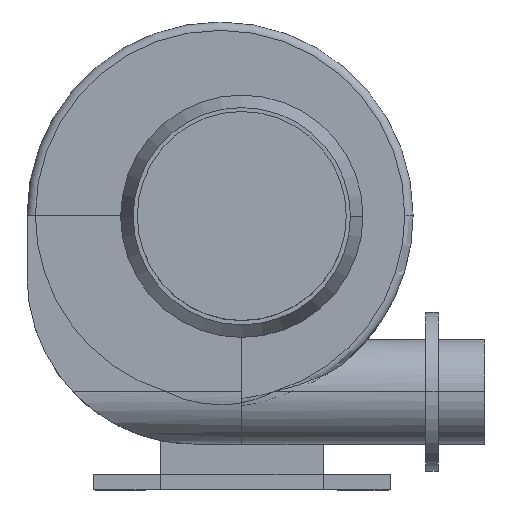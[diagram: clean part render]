
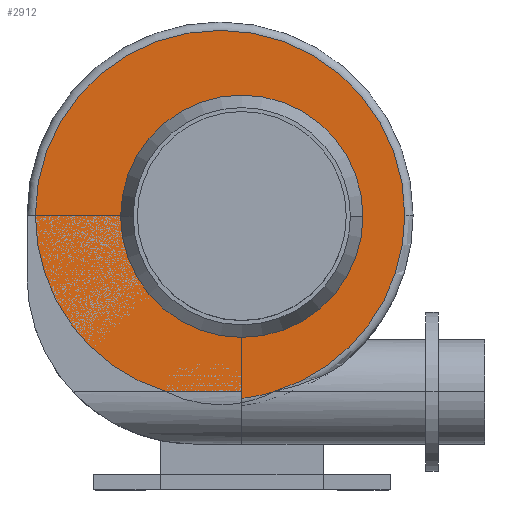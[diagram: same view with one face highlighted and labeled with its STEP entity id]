
A CAD part, top view. The second image highlights one B-rep face of the part: STEP entity #2912.
In plain terms, the highlighted planar face has unit normal (0, 0, 1).
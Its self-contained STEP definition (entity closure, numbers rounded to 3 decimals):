
#63 = CARTESIAN_POINT ( 'NONE',  ( 38.237, -210., 62.5 ) ) ;
#95 = CARTESIAN_POINT ( 'NONE',  ( 0., 0., 62.5 ) ) ;
#94 = DIRECTION ( 'NONE',  ( 0., 0., 1. ) ) ;
#173 = DIRECTION ( 'NONE',  ( 1., 0., 0. ) ) ;
#207 = CIRCLE ( 'NONE', #992, 221.005 ) ;
#257 = CARTESIAN_POINT ( 'NONE',  ( 0., -218.007, 62.5 ) ) ;
#269 = VERTEX_POINT ( 'NONE', #2127 ) ;
#317 = CARTESIAN_POINT ( 'NONE',  ( 145., 0., 62.5 ) ) ;
#344 = DIRECTION ( 'NONE',  ( 1., 0., 0. ) ) ;
#370 = DIRECTION ( 'NONE',  ( 0., 0., 1. ) ) ;
#472 = VECTOR ( 'NONE', #884, 1000. ) ;
#650 = ORIENTED_EDGE ( 'NONE', *, *, #2994, .T. ) ;
#739 = AXIS2_PLACEMENT_3D ( 'NONE', #3125, #1682, #173 ) ;
#767 = VERTEX_POINT ( 'NONE', #257 ) ;
#818 = CARTESIAN_POINT ( 'NONE',  ( -26., 1.463, 62.5 ) ) ;
#872 = CARTESIAN_POINT ( 'NONE',  ( 0., -210., 62.5 ) ) ;
#884 = DIRECTION ( 'NONE',  ( 1., 0., 0. ) ) ;
#909 = CARTESIAN_POINT ( 'NONE',  ( -26., 1.463, 62.5 ) ) ;
#914 = AXIS2_PLACEMENT_3D ( 'NONE', #818, #94, #1864 ) ;
#923 = CARTESIAN_POINT ( 'NONE',  ( -26., 1.463, 62.5 ) ) ;
#970 = ORIENTED_EDGE ( 'NONE', *, *, #2363, .F. ) ;
#992 = AXIS2_PLACEMENT_3D ( 'NONE', #909, #2698, #1175 ) ;
#994 = ORIENTED_EDGE ( 'NONE', *, *, #2673, .T. ) ;
#1030 = VERTEX_POINT ( 'NONE', #2550 ) ;
#1050 = VECTOR ( 'NONE', #1148, 1000. ) ;
#1100 = CARTESIAN_POINT ( 'NONE',  ( -26., 1.463, 62.5 ) ) ;
#1139 = LINE ( 'NONE', #2448, #472 ) ;
#1148 = DIRECTION ( 'NONE',  ( 0., -1., 0. ) ) ;
#1175 = DIRECTION ( 'NONE',  ( 1., 0., 0. ) ) ;
#1185 = CIRCLE ( 'NONE', #1263, 221.005 ) ;
#1191 = DIRECTION ( 'NONE',  ( 1., 0., 0. ) ) ;
#1221 = AXIS2_PLACEMENT_3D ( 'NONE', #923, #2703, #1191 ) ;
#1239 = ORIENTED_EDGE ( 'NONE', *, *, #2622, .T. ) ;
#1242 = CARTESIAN_POINT ( 'NONE',  ( -247.005, 1.463, 62.5 ) ) ;
#1263 = AXIS2_PLACEMENT_3D ( 'NONE', #1894, #370, #2164 ) ;
#1311 = AXIS2_PLACEMENT_3D ( 'NONE', #1100, #2856, #1357 ) ;
#1357 = DIRECTION ( 'NONE',  ( 1., 0., 0. ) ) ;
#1378 = FACE_OUTER_BOUND ( 'NONE', #2787, .T. ) ;
#1422 = VERTEX_POINT ( 'NONE', #2585 ) ;
#1423 = VERTEX_POINT ( 'NONE', #63 ) ;
#1484 = EDGE_LOOP ( 'NONE', ( #1881, #970 ) ) ;
#1637 = CARTESIAN_POINT ( 'NONE',  ( -145., 0., 62.5 ) ) ;
#1682 = DIRECTION ( 'NONE',  ( 0., 0., 1. ) ) ;
#1746 = CIRCLE ( 'NONE', #1880, 145. ) ;
#1755 = ORIENTED_EDGE ( 'NONE', *, *, #2583, .T. ) ;
#1786 = VERTEX_POINT ( 'NONE', #317 ) ;
#1865 = DIRECTION ( 'NONE',  ( 0., 0., 1. ) ) ;
#1864 = DIRECTION ( 'NONE',  ( 1., 0., 0. ) ) ;
#1880 = AXIS2_PLACEMENT_3D ( 'NONE', #95, #1865, #344 ) ;
#1881 = ORIENTED_EDGE ( 'NONE', *, *, #3009, .F. ) ;
#1894 = CARTESIAN_POINT ( 'NONE',  ( -26., 1.463, 62.5 ) ) ;
#1940 = VERTEX_POINT ( 'NONE', #1637 ) ;
#1955 = CIRCLE ( 'NONE', #1311, 221.005 ) ;
#2114 = ORIENTED_EDGE ( 'NONE', *, *, #2998, .T. ) ;
#2127 = CARTESIAN_POINT ( 'NONE',  ( 195.005, 1.463, 62.5 ) ) ;
#2164 = DIRECTION ( 'NONE',  ( 1., 0., 0. ) ) ;
#2235 = PLANE ( 'NONE',  #914 ) ;
#2256 = VERTEX_POINT ( 'NONE', #1242 ) ;
#2349 = CIRCLE ( 'NONE', #739, 145. ) ;
#2363 = EDGE_CURVE ( 'NONE', #1786, #1940, #1746, .T. ) ;
#2448 = CARTESIAN_POINT ( 'NONE',  ( -200., -210., 62.5 ) ) ;
#2478 = CIRCLE ( 'NONE', #1221, 221.005 ) ;
#2550 = CARTESIAN_POINT ( 'NONE',  ( 0., -210., 62.5 ) ) ;
#2583 = EDGE_CURVE ( 'NONE', #269, #2256, #1955, .T. ) ;
#2585 = CARTESIAN_POINT ( 'NONE',  ( -90.237, -210., 62.5 ) ) ;
#2622 = EDGE_CURVE ( 'NONE', #1423, #269, #1185, .T. ) ;
#2673 = EDGE_CURVE ( 'NONE', #2256, #1422, #2478, .T. ) ;
#2698 = DIRECTION ( 'NONE',  ( 0., 0., 1. ) ) ;
#2703 = DIRECTION ( 'NONE',  ( 0., 0., 1. ) ) ;
#2719 = FACE_BOUND ( 'NONE', #1484, .T. ) ;
#2787 = EDGE_LOOP ( 'NONE', ( #650, #2114, #2799, #1239, #1755, #994 ) ) ;
#2799 = ORIENTED_EDGE ( 'NONE', *, *, #2850, .T. ) ;
#2850 = EDGE_CURVE ( 'NONE', #767, #1423, #207, .T. ) ;
#2856 = DIRECTION ( 'NONE',  ( 0., 0., 1. ) ) ;
#2912 = ADVANCED_FACE ( 'NONE', ( #1378, #2719 ), #2235, .T. ) ;
#2994 = EDGE_CURVE ( 'NONE', #1422, #1030, #1139, .T. ) ;
#2998 = EDGE_CURVE ( 'NONE', #1030, #767, #3021, .T. ) ;
#3009 = EDGE_CURVE ( 'NONE', #1940, #1786, #2349, .T. ) ;
#3021 = LINE ( 'NONE', #872, #1050 ) ;
#3125 = CARTESIAN_POINT ( 'NONE',  ( 0., 0., 62.5 ) ) ;
